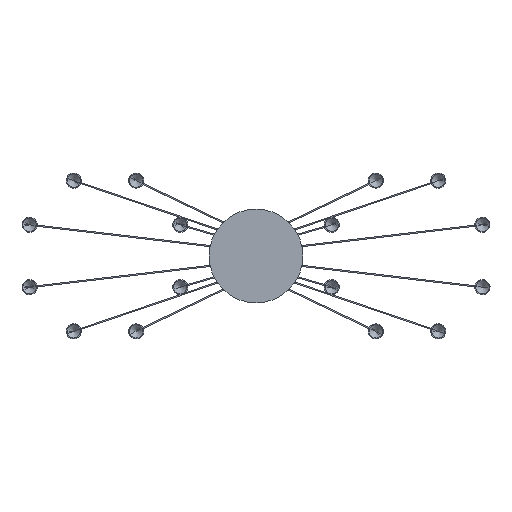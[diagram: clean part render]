
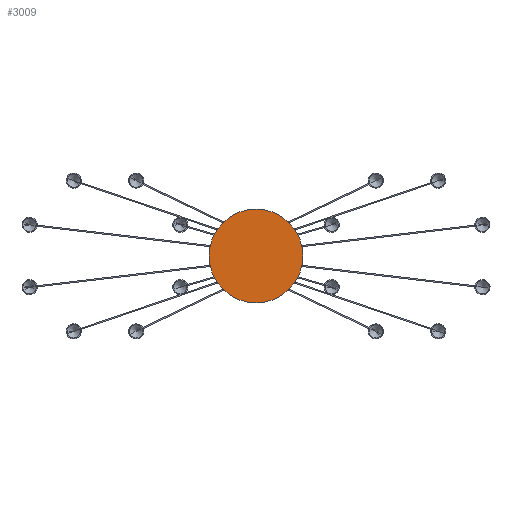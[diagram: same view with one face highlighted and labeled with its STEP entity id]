
A CAD part, front view. The second image highlights one B-rep face of the part: STEP entity #3009.
In plain terms, the highlighted planar face has unit normal (0, -1, 0).
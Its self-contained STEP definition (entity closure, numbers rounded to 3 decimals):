
#189 = EDGE_CURVE ( 'NONE', #2692, #2532, #5923, .T. ) ;
#718 = DIRECTION ( 'NONE',  ( 0., 1., 0. ) ) ;
#954 = PLANE ( 'NONE',  #1912 ) ;
#1459 = DIRECTION ( 'NONE',  ( 0., 0., 1. ) ) ;
#1912 = AXIS2_PLACEMENT_3D ( 'NONE', #3697, #2074, #1459 ) ;
#2074 = DIRECTION ( 'NONE',  ( 0., 1., 0. ) ) ;
#2343 = CIRCLE ( 'NONE', #6520, 155. ) ;
#2421 = EDGE_CURVE ( 'NONE', #2532, #2692, #2343, .T. ) ;
#2520 = EDGE_LOOP ( 'NONE', ( #3391, #3882 ) ) ;
#2532 = VERTEX_POINT ( 'NONE', #5319 ) ;
#2692 = VERTEX_POINT ( 'NONE', #4272 ) ;
#2764 = AXIS2_PLACEMENT_3D ( 'NONE', #6521, #4864, #6955 ) ;
#3009 = ADVANCED_FACE ( 'NONE', ( #6875 ), #954, .F. ) ;
#3391 = ORIENTED_EDGE ( 'NONE', *, *, #2421, .F. ) ;
#3697 = CARTESIAN_POINT ( 'NONE',  ( 0., 0., 0. ) ) ;
#3882 = ORIENTED_EDGE ( 'NONE', *, *, #189, .F. ) ;
#4272 = CARTESIAN_POINT ( 'NONE',  ( 0., 0., 155. ) ) ;
#4864 = DIRECTION ( 'NONE',  ( 0., 1., 0. ) ) ;
#5033 = DIRECTION ( 'NONE',  ( 0., 0., 1. ) ) ;
#5319 = CARTESIAN_POINT ( 'NONE',  ( 0., 0., -155. ) ) ;
#5564 = CARTESIAN_POINT ( 'NONE',  ( 0., 0., 0. ) ) ;
#5923 = CIRCLE ( 'NONE', #2764, 155. ) ;
#6520 = AXIS2_PLACEMENT_3D ( 'NONE', #5564, #718, #5033 ) ;
#6521 = CARTESIAN_POINT ( 'NONE',  ( 0., 0., 0. ) ) ;
#6875 = FACE_OUTER_BOUND ( 'NONE', #2520, .T. ) ;
#6955 = DIRECTION ( 'NONE',  ( 0., 0., 1. ) ) ;
